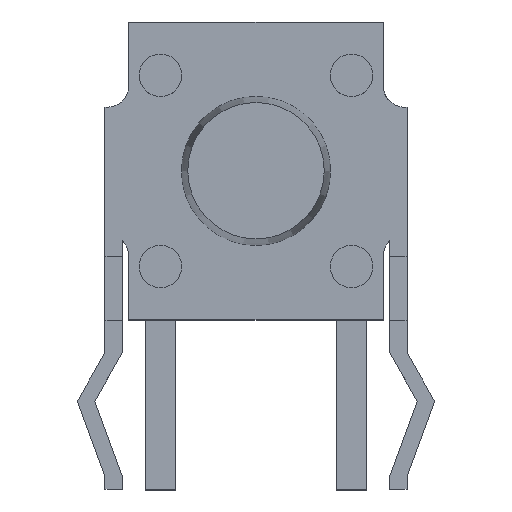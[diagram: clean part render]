
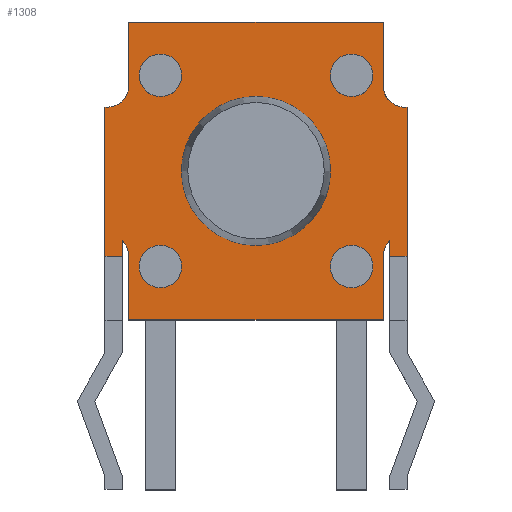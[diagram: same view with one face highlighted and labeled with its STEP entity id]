
A CAD part, top view. The second image highlights one B-rep face of the part: STEP entity #1308.
In plain terms, the highlighted planar face has unit normal (0, 0, 1).
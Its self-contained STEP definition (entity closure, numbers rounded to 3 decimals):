
#19=FACE_BOUND('',#479,.T.);
#20=FACE_BOUND('',#480,.T.);
#21=FACE_BOUND('',#481,.T.);
#22=FACE_BOUND('',#482,.T.);
#23=FACE_BOUND('',#483,.T.);
#49=LINE('',#1831,#211);
#96=LINE('',#1925,#258);
#166=LINE('',#2074,#328);
#169=LINE('',#2080,#331);
#174=LINE('',#2098,#336);
#175=LINE('',#2100,#337);
#176=LINE('',#2101,#338);
#177=LINE('',#2102,#339);
#178=LINE('',#2104,#340);
#179=LINE('',#2106,#341);
#180=LINE('',#2108,#342);
#181=LINE('',#2112,#343);
#182=LINE('',#2113,#344);
#211=VECTOR('',#1479,10.);
#258=VECTOR('',#1556,10.);
#328=VECTOR('',#1678,10.);
#331=VECTOR('',#1685,10.);
#336=VECTOR('',#1704,10.);
#337=VECTOR('',#1705,10.);
#338=VECTOR('',#1706,10.);
#339=VECTOR('',#1707,10.);
#340=VECTOR('',#1708,10.);
#341=VECTOR('',#1709,10.);
#342=VECTOR('',#1710,10.);
#343=VECTOR('',#1713,10.);
#344=VECTOR('',#1714,10.);
#408=FACE_OUTER_BOUND('',#478,.T.);
#478=EDGE_LOOP('',(#1083,#1084,#1085,#1086,#1087,#1088,#1089,#1090,#1091,
#1092,#1093,#1094,#1095,#1096,#1097,#1098,#1099));
#479=EDGE_LOOP('',(#1100,#1101));
#480=EDGE_LOOP('',(#1102));
#481=EDGE_LOOP('',(#1103));
#482=EDGE_LOOP('',(#1104));
#483=EDGE_LOOP('',(#1105));
#508=CIRCLE('',#1348,1.755);
#509=CIRCLE('',#1349,1.755);
#514=CIRCLE('',#1400,0.5);
#516=CIRCLE('',#1403,0.5);
#517=CIRCLE('',#1405,0.5);
#518=CIRCLE('',#1406,0.5);
#519=CIRCLE('',#1407,0.5);
#520=CIRCLE('',#1408,0.5);
#521=CIRCLE('',#1409,0.5);
#522=CIRCLE('',#1410,0.5);
#529=VERTEX_POINT('',#1794);
#530=VERTEX_POINT('',#1796);
#541=VERTEX_POINT('',#1828);
#542=VERTEX_POINT('',#1830);
#574=VERTEX_POINT('',#1924);
#625=VERTEX_POINT('',#2068);
#627=VERTEX_POINT('',#2072);
#628=VERTEX_POINT('',#2079);
#629=VERTEX_POINT('',#2083);
#630=VERTEX_POINT('',#2084);
#632=VERTEX_POINT('',#2091);
#633=VERTEX_POINT('',#2095);
#634=VERTEX_POINT('',#2097);
#635=VERTEX_POINT('',#2099);
#636=VERTEX_POINT('',#2103);
#637=VERTEX_POINT('',#2105);
#638=VERTEX_POINT('',#2107);
#639=VERTEX_POINT('',#2109);
#640=VERTEX_POINT('',#2111);
#641=VERTEX_POINT('',#2114);
#642=VERTEX_POINT('',#2116);
#643=VERTEX_POINT('',#2118);
#644=VERTEX_POINT('',#2120);
#652=EDGE_CURVE('',#530,#529,#508,.T.);
#653=EDGE_CURVE('',#529,#530,#509,.T.);
#668=EDGE_CURVE('',#541,#542,#49,.T.);
#715=EDGE_CURVE('',#542,#574,#96,.T.);
#789=EDGE_CURVE('',#625,#627,#166,.T.);
#792=EDGE_CURVE('',#628,#625,#169,.T.);
#794=EDGE_CURVE('',#629,#630,#514,.T.);
#798=EDGE_CURVE('',#628,#632,#516,.T.);
#800=EDGE_CURVE('',#633,#541,#517,.T.);
#801=EDGE_CURVE('',#634,#633,#174,.T.);
#802=EDGE_CURVE('',#634,#635,#175,.T.);
#803=EDGE_CURVE('',#635,#632,#176,.T.);
#804=EDGE_CURVE('',#627,#630,#177,.T.);
#805=EDGE_CURVE('',#636,#629,#178,.T.);
#806=EDGE_CURVE('',#637,#636,#179,.T.);
#807=EDGE_CURVE('',#637,#638,#180,.T.);
#808=EDGE_CURVE('',#639,#638,#518,.T.);
#809=EDGE_CURVE('',#640,#639,#181,.T.);
#810=EDGE_CURVE('',#574,#640,#182,.T.);
#811=EDGE_CURVE('',#641,#641,#519,.T.);
#812=EDGE_CURVE('',#642,#642,#520,.T.);
#813=EDGE_CURVE('',#643,#643,#521,.T.);
#814=EDGE_CURVE('',#644,#644,#522,.T.);
#1083=ORIENTED_EDGE('',*,*,#800,.F.);
#1084=ORIENTED_EDGE('',*,*,#801,.F.);
#1085=ORIENTED_EDGE('',*,*,#802,.T.);
#1086=ORIENTED_EDGE('',*,*,#803,.T.);
#1087=ORIENTED_EDGE('',*,*,#798,.F.);
#1088=ORIENTED_EDGE('',*,*,#792,.T.);
#1089=ORIENTED_EDGE('',*,*,#789,.T.);
#1090=ORIENTED_EDGE('',*,*,#804,.T.);
#1091=ORIENTED_EDGE('',*,*,#794,.F.);
#1092=ORIENTED_EDGE('',*,*,#805,.F.);
#1093=ORIENTED_EDGE('',*,*,#806,.F.);
#1094=ORIENTED_EDGE('',*,*,#807,.T.);
#1095=ORIENTED_EDGE('',*,*,#808,.F.);
#1096=ORIENTED_EDGE('',*,*,#809,.F.);
#1097=ORIENTED_EDGE('',*,*,#810,.F.);
#1098=ORIENTED_EDGE('',*,*,#715,.F.);
#1099=ORIENTED_EDGE('',*,*,#668,.F.);
#1100=ORIENTED_EDGE('',*,*,#652,.T.);
#1101=ORIENTED_EDGE('',*,*,#653,.T.);
#1102=ORIENTED_EDGE('',*,*,#811,.F.);
#1103=ORIENTED_EDGE('',*,*,#812,.F.);
#1104=ORIENTED_EDGE('',*,*,#813,.F.);
#1105=ORIENTED_EDGE('',*,*,#814,.F.);
#1244=PLANE('',#1404);
#1308=ADVANCED_FACE('',(#408,#19,#20,#21,#22,#23),#1244,.T.);
#1348=AXIS2_PLACEMENT_3D('',#1797,#1449,#1450);
#1349=AXIS2_PLACEMENT_3D('',#1798,#1451,#1452);
#1400=AXIS2_PLACEMENT_3D('',#2085,#1689,#1690);
#1403=AXIS2_PLACEMENT_3D('',#2092,#1697,#1698);
#1404=AXIS2_PLACEMENT_3D('',#2094,#1700,#1701);
#1405=AXIS2_PLACEMENT_3D('',#2096,#1702,#1703);
#1406=AXIS2_PLACEMENT_3D('',#2110,#1711,#1712);
#1407=AXIS2_PLACEMENT_3D('',#2115,#1715,#1716);
#1408=AXIS2_PLACEMENT_3D('',#2117,#1717,#1718);
#1409=AXIS2_PLACEMENT_3D('',#2119,#1719,#1720);
#1410=AXIS2_PLACEMENT_3D('',#2121,#1721,#1722);
#1449=DIRECTION('center_axis',(0.,0.,-1.));
#1450=DIRECTION('ref_axis',(1.,0.,0.));
#1451=DIRECTION('center_axis',(0.,0.,-1.));
#1452=DIRECTION('ref_axis',(1.,0.,0.));
#1479=DIRECTION('',(0.,-1.,0.));
#1556=DIRECTION('',(-1.,0.,0.));
#1678=DIRECTION('',(1.,0.,0.));
#1685=DIRECTION('',(0.,-1.,0.));
#1689=DIRECTION('center_axis',(0.,0.,1.));
#1690=DIRECTION('ref_axis',(-1.,0.,0.));
#1697=DIRECTION('center_axis',(0.,0.,1.));
#1698=DIRECTION('ref_axis',(0.12,0.993,0.));
#1700=DIRECTION('center_axis',(0.,0.,1.));
#1701=DIRECTION('ref_axis',(1.,0.,0.));
#1702=DIRECTION('center_axis',(0.,0.,1.));
#1703=DIRECTION('ref_axis',(1.,0.,0.));
#1704=DIRECTION('',(0.,1.,0.));
#1705=DIRECTION('',(1.,0.,0.));
#1706=DIRECTION('',(0.,1.,0.));
#1707=DIRECTION('',(0.,1.,0.));
#1708=DIRECTION('',(0.,-1.,0.));
#1709=DIRECTION('',(1.,0.,0.));
#1710=DIRECTION('',(0.,-1.,0.));
#1711=DIRECTION('center_axis',(0.,0.,1.));
#1712=DIRECTION('ref_axis',(0.,-1.,0.));
#1713=DIRECTION('',(1.,0.,0.));
#1714=DIRECTION('',(0.,1.,0.));
#1715=DIRECTION('center_axis',(0.,0.,1.));
#1716=DIRECTION('ref_axis',(1.,0.,0.));
#1717=DIRECTION('center_axis',(0.,0.,1.));
#1718=DIRECTION('ref_axis',(1.,0.,0.));
#1719=DIRECTION('center_axis',(0.,0.,1.));
#1720=DIRECTION('ref_axis',(1.,0.,0.));
#1721=DIRECTION('center_axis',(0.,0.,1.));
#1722=DIRECTION('ref_axis',(1.,0.,0.));
#1794=CARTESIAN_POINT('',(1.8,3.505,0.));
#1796=CARTESIAN_POINT('',(5.31,3.505,0.));
#1797=CARTESIAN_POINT('Origin',(3.555,3.505,0.));
#1798=CARTESIAN_POINT('Origin',(3.555,3.505,0.));
#1828=CARTESIAN_POINT('',(0.41,1.862,0.));
#1830=CARTESIAN_POINT('',(0.41,1.498,0.));
#1831=CARTESIAN_POINT('',(0.41,3.503,0.));
#1924=CARTESIAN_POINT('',(0.,1.498,0.));
#1925=CARTESIAN_POINT('',(0.41,1.498,0.));
#2068=CARTESIAN_POINT('',(6.7,1.498,0.));
#2072=CARTESIAN_POINT('',(7.11,1.498,0.));
#2074=CARTESIAN_POINT('',(6.7,1.498,0.));
#2079=CARTESIAN_POINT('',(6.7,1.862,0.));
#2080=CARTESIAN_POINT('',(6.7,3.503,0.));
#2083=CARTESIAN_POINT('',(6.55,5.505,0.));
#2084=CARTESIAN_POINT('',(7.11,5.009,0.));
#2085=CARTESIAN_POINT('Origin',(7.05,5.505,0.));
#2091=CARTESIAN_POINT('',(6.55,1.505,0.));
#2092=CARTESIAN_POINT('Origin',(7.05,1.505,0.));
#2094=CARTESIAN_POINT('Origin',(3.555,3.505,0.));
#2095=CARTESIAN_POINT('',(0.56,1.505,0.));
#2096=CARTESIAN_POINT('Origin',(0.06,1.505,0.));
#2097=CARTESIAN_POINT('',(0.56,0.,0.));
#2098=CARTESIAN_POINT('',(0.56,0.,0.));
#2099=CARTESIAN_POINT('',(6.55,0.,0.));
#2100=CARTESIAN_POINT('',(3.555,0.,0.));
#2101=CARTESIAN_POINT('',(6.55,0.,0.));
#2102=CARTESIAN_POINT('',(7.11,2.001,0.));
#2103=CARTESIAN_POINT('',(6.55,7.01,0.));
#2104=CARTESIAN_POINT('',(6.55,7.01,0.));
#2105=CARTESIAN_POINT('',(0.56,7.01,0.));
#2106=CARTESIAN_POINT('',(3.555,7.01,0.));
#2107=CARTESIAN_POINT('',(0.56,5.505,0.));
#2108=CARTESIAN_POINT('',(0.56,7.01,0.));
#2109=CARTESIAN_POINT('',(0.06,5.005,0.));
#2110=CARTESIAN_POINT('Origin',(0.06,5.505,0.));
#2111=CARTESIAN_POINT('',(0.,5.005,0.));
#2112=CARTESIAN_POINT('',(0.,5.005,0.));
#2113=CARTESIAN_POINT('',(0.,2.001,0.));
#2114=CARTESIAN_POINT('',(5.305,1.255,0.));
#2115=CARTESIAN_POINT('Origin',(5.805,1.255,0.));
#2116=CARTESIAN_POINT('',(0.805,5.755,0.));
#2117=CARTESIAN_POINT('Origin',(1.305,5.755,0.));
#2118=CARTESIAN_POINT('',(5.305,5.755,0.));
#2119=CARTESIAN_POINT('Origin',(5.805,5.755,0.));
#2120=CARTESIAN_POINT('',(0.805,1.255,0.));
#2121=CARTESIAN_POINT('Origin',(1.305,1.255,0.));
